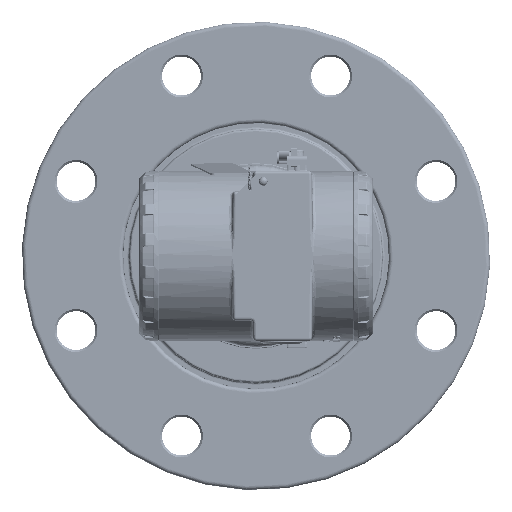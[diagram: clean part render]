
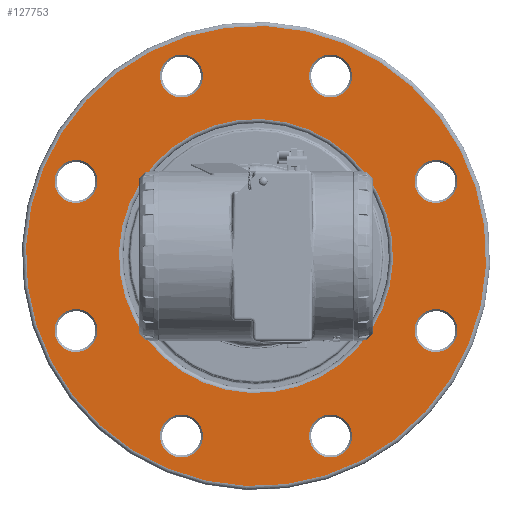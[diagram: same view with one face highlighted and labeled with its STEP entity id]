
A CAD part, left-side view. The second image highlights one B-rep face of the part: STEP entity #127753.
In plain terms, the highlighted planar face has unit normal (-1, 0, 0) as drawn and (0, 0, -1) by its records, which use the part's own axes.
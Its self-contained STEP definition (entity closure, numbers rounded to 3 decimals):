
#29775=FACE_BOUND('',#44791,.T.);
#29776=FACE_BOUND('',#44792,.T.);
#29777=FACE_BOUND('',#44793,.T.);
#29778=FACE_BOUND('',#44794,.T.);
#29779=FACE_BOUND('',#44795,.T.);
#29780=FACE_BOUND('',#44796,.T.);
#29781=FACE_BOUND('',#44797,.T.);
#29782=FACE_BOUND('',#44798,.T.);
#29783=FACE_BOUND('',#44799,.T.);
#36926=FACE_OUTER_BOUND('',#44790,.T.);
#44790=EDGE_LOOP('',(#116901));
#44791=EDGE_LOOP('',(#116902));
#44792=EDGE_LOOP('',(#116903));
#44793=EDGE_LOOP('',(#116904));
#44794=EDGE_LOOP('',(#116905));
#44795=EDGE_LOOP('',(#116906,#116907));
#44796=EDGE_LOOP('',(#116908));
#44797=EDGE_LOOP('',(#116909));
#44798=EDGE_LOOP('',(#116910));
#44799=EDGE_LOOP('',(#116911));
#50553=CIRCLE('',#141923,10.5);
#50555=CIRCLE('',#141926,112.5);
#50556=CIRCLE('',#141927,10.5);
#50557=CIRCLE('',#141928,10.5);
#50558=CIRCLE('',#141929,10.5);
#50559=CIRCLE('',#141930,10.5);
#50560=CIRCLE('',#141931,67.);
#50561=CIRCLE('',#141932,67.);
#50562=CIRCLE('',#141933,10.5);
#50563=CIRCLE('',#141934,10.5);
#50564=CIRCLE('',#141935,10.5);
#62211=VERTEX_POINT('',#276639);
#62213=VERTEX_POINT('',#276645);
#62214=VERTEX_POINT('',#276647);
#62215=VERTEX_POINT('',#276649);
#62216=VERTEX_POINT('',#276651);
#62217=VERTEX_POINT('',#276653);
#62218=VERTEX_POINT('',#276655);
#62219=VERTEX_POINT('',#276656);
#62220=VERTEX_POINT('',#276659);
#62221=VERTEX_POINT('',#276661);
#62222=VERTEX_POINT('',#276663);
#80448=EDGE_CURVE('',#62211,#62211,#50553,.T.);
#80451=EDGE_CURVE('',#62213,#62213,#50555,.T.);
#80452=EDGE_CURVE('',#62214,#62214,#50556,.T.);
#80453=EDGE_CURVE('',#62215,#62215,#50557,.T.);
#80454=EDGE_CURVE('',#62216,#62216,#50558,.T.);
#80455=EDGE_CURVE('',#62217,#62217,#50559,.T.);
#80456=EDGE_CURVE('',#62218,#62219,#50560,.T.);
#80457=EDGE_CURVE('',#62219,#62218,#50561,.T.);
#80458=EDGE_CURVE('',#62220,#62220,#50562,.T.);
#80459=EDGE_CURVE('',#62221,#62221,#50563,.T.);
#80460=EDGE_CURVE('',#62222,#62222,#50564,.T.);
#116901=ORIENTED_EDGE('',*,*,#80451,.F.);
#116902=ORIENTED_EDGE('',*,*,#80452,.F.);
#116903=ORIENTED_EDGE('',*,*,#80453,.F.);
#116904=ORIENTED_EDGE('',*,*,#80454,.F.);
#116905=ORIENTED_EDGE('',*,*,#80455,.F.);
#116906=ORIENTED_EDGE('',*,*,#80456,.F.);
#116907=ORIENTED_EDGE('',*,*,#80457,.F.);
#116908=ORIENTED_EDGE('',*,*,#80458,.F.);
#116909=ORIENTED_EDGE('',*,*,#80459,.F.);
#116910=ORIENTED_EDGE('',*,*,#80460,.F.);
#116911=ORIENTED_EDGE('',*,*,#80448,.F.);
#120618=PLANE('',#141925);
#127753=ADVANCED_FACE('',(#36926,#29775,#29776,#29777,#29778,#29779,#29780,
#29781,#29782,#29783),#120618,.T.);
#141923=AXIS2_PLACEMENT_3D('',#276640,#176245,#176246);
#141925=AXIS2_PLACEMENT_3D('',#276644,#176250,#176251);
#141926=AXIS2_PLACEMENT_3D('',#276646,#176252,#176253);
#141927=AXIS2_PLACEMENT_3D('',#276648,#176254,#176255);
#141928=AXIS2_PLACEMENT_3D('',#276650,#176256,#176257);
#141929=AXIS2_PLACEMENT_3D('',#276652,#176258,#176259);
#141930=AXIS2_PLACEMENT_3D('',#276654,#176260,#176261);
#141931=AXIS2_PLACEMENT_3D('',#276657,#176262,#176263);
#141932=AXIS2_PLACEMENT_3D('',#276658,#176264,#176265);
#141933=AXIS2_PLACEMENT_3D('',#276660,#176266,#176267);
#141934=AXIS2_PLACEMENT_3D('',#276662,#176268,#176269);
#141935=AXIS2_PLACEMENT_3D('',#276664,#176270,#176271);
#176245=DIRECTION('center_axis',(0.,0.,-1.));
#176246=DIRECTION('ref_axis',(-1.,0.,0.));
#176250=DIRECTION('center_axis',(0.,0.,-1.));
#176251=DIRECTION('ref_axis',(-1.,0.,0.));
#176252=DIRECTION('center_axis',(0.,0.,1.));
#176253=DIRECTION('ref_axis',(-1.,0.,0.));
#176254=DIRECTION('center_axis',(0.,0.,-1.));
#176255=DIRECTION('ref_axis',(-1.,0.,0.));
#176256=DIRECTION('center_axis',(0.,0.,-1.));
#176257=DIRECTION('ref_axis',(-1.,0.,0.));
#176258=DIRECTION('center_axis',(0.,0.,-1.));
#176259=DIRECTION('ref_axis',(-1.,0.,0.));
#176260=DIRECTION('center_axis',(0.,0.,-1.));
#176261=DIRECTION('ref_axis',(-1.,0.,0.));
#176262=DIRECTION('center_axis',(0.,0.,-1.));
#176263=DIRECTION('ref_axis',(-1.,0.,0.));
#176264=DIRECTION('center_axis',(0.,0.,-1.));
#176265=DIRECTION('ref_axis',(-1.,0.,0.));
#176266=DIRECTION('center_axis',(0.,0.,-1.));
#176267=DIRECTION('ref_axis',(-1.,0.,0.));
#176268=DIRECTION('center_axis',(0.,0.,-1.));
#176269=DIRECTION('ref_axis',(-1.,0.,0.));
#176270=DIRECTION('center_axis',(0.,0.,-1.));
#176271=DIRECTION('ref_axis',(-1.,0.,0.));
#276639=CARTESIAN_POINT('',(-56.852,-67.352,0.));
#276640=CARTESIAN_POINT('Origin',(-67.352,-67.352,0.));
#276644=CARTESIAN_POINT('Origin',(0.,0.,0.));
#276645=CARTESIAN_POINT('',(112.5,0.,0.));
#276646=CARTESIAN_POINT('Origin',(0.,0.,0.));
#276647=CARTESIAN_POINT('',(-84.75,0.,0.));
#276648=CARTESIAN_POINT('Origin',(-95.25,0.,0.));
#276649=CARTESIAN_POINT('',(-56.852,67.352,0.));
#276650=CARTESIAN_POINT('Origin',(-67.352,67.352,0.));
#276651=CARTESIAN_POINT('',(105.75,0.,0.));
#276652=CARTESIAN_POINT('Origin',(95.25,0.,
0.));
#276653=CARTESIAN_POINT('',(10.5,-95.25,0.));
#276654=CARTESIAN_POINT('Origin',(0.,-95.25,0.));
#276655=CARTESIAN_POINT('',(67.,0.,0.));
#276656=CARTESIAN_POINT('',(-67.,0.,0.));
#276657=CARTESIAN_POINT('Origin',(0.,0.,0.));
#276658=CARTESIAN_POINT('Origin',(0.,0.,0.));
#276659=CARTESIAN_POINT('',(77.852,-67.352,0.));
#276660=CARTESIAN_POINT('Origin',(67.352,-67.352,0.));
#276661=CARTESIAN_POINT('',(77.852,67.352,0.));
#276662=CARTESIAN_POINT('Origin',(67.352,67.352,0.));
#276663=CARTESIAN_POINT('',(10.5,95.25,0.));
#276664=CARTESIAN_POINT('Origin',(0.,95.25,0.));
